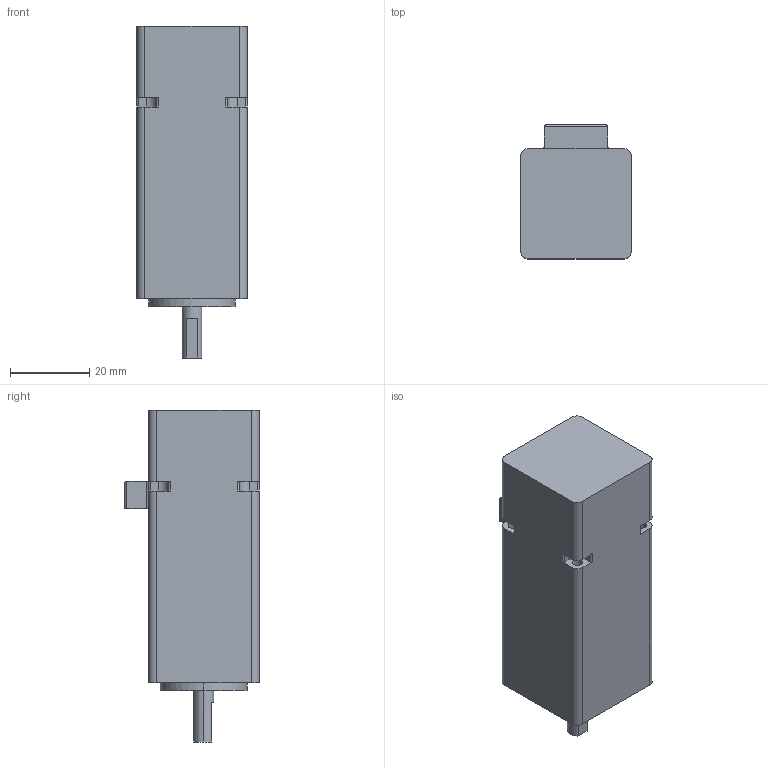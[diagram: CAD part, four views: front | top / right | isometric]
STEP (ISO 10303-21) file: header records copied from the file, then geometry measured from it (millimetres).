
FILE_DESCRIPTION (( 'STEP AP214' ), '1' );
FILE_NAME ('28A012EC.STEP', '2021-07-16T00:53:39', ( '微软用户' ), ( '微软中国' ), 'SwSTEP 2.0', 'SolidWorks 2020', '' );
FILE_SCHEMA (( 'AUTOMOTIVE_DESIGN' ));
Length unit declared in the file: millimetre
Products named in the file (1): 28A012EC
Bounding box: 28 x 34 x 84 mm (x, y, z)
Volume: 54354.2 mm3; surface area: 11320.3 mm2
Topology: 1 solids, 1 shells, 69 faces, 187 edges, 122 vertices
Faces by surface type: cylinder 37, plane 32
Entity records: 2239 total; most frequent: DIRECTION 397, CARTESIAN_POINT 385, ORIENTED_EDGE 374, EDGE_CURVE 187, AXIS2_PLACEMENT_3D 142, VERTEX_POINT 122, VECTOR 113, LINE 113
